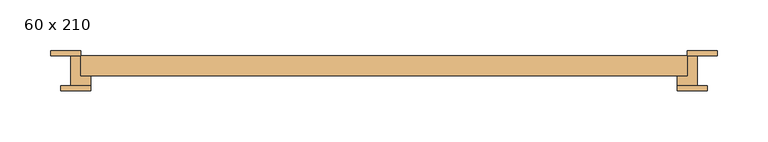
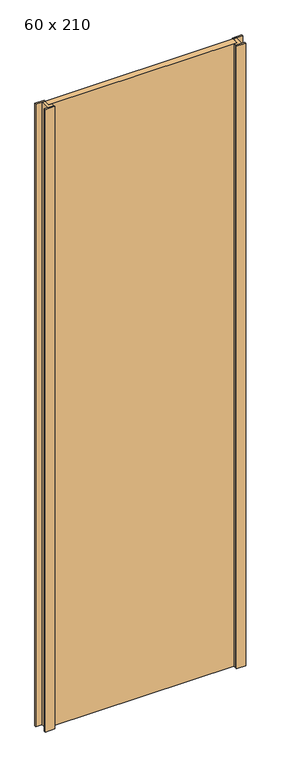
"""IFC4 building model written with IfcOpenShell, lengths in millimetres: door geometry, PORTA DE ABRIR PARA DIVISÓRIAS- 1 FOLHA : 60 x 210."""

from ifc_helpers import new_model, si_unit, origin, origin_with_axes, place, context, project, spatial, polyline, outline, extrude, source, transform, mapped, element, save


def door_60_x_210_5ad6dbc2(model_context):
    return source(origin(), model_context, "Body", "SweptSolid", [
        extrude(outline(polyline([(350.0, 15.0), (350.0, -5.0), (-250.0, -5.0), (-250.0, 15.0), (350.0, 15.0)])), origin_with_axes(), (0.0, 0.0, 1.0), 2100.0),
        extrude(outline(polyline([(380.0, 20.0), (380.0, 15.0), (350.0, 15.0), (350.0, 20.0), (380.0, 20.0)])), origin_with_axes(), (0.0, 0.0, 1.0), 2100.0),
        extrude(outline(polyline([(-250.0, 20.0), (-250.0, 15.0), (-280.0, 15.0), (-280.0, 20.0), (-250.0, 20.0)])), origin_with_axes(), (0.0, 0.0, 1.0), 2100.0),
        extrude(outline(polyline([(370.0, -15.0), (370.0, -20.0), (340.0, -20.0), (340.0, -15.0), (370.0, -15.0)])), origin_with_axes(), (0.0, 0.0, 1.0), 2100.0),
        extrude(outline(polyline([(-240.0, -15.0), (-240.0, -20.0), (-270.0, -20.0), (-270.0, -15.0), (-240.0, -15.0)])), origin_with_axes(), (0.0, 0.0, 1.0), 2100.0),
        extrude(outline(polyline([(-260.0, -15.0), (-260.0, 15.0), (-250.0, 15.0), (-250.0, -5.0), (-240.0, -5.0), (-240.0, -15.0), (-260.0, -15.0)])), origin_with_axes(), (0.0, 0.0, 1.0), 2100.0),
        extrude(outline(polyline([(360.0, -15.0), (340.0, -15.0), (340.0, -5.0), (350.0, -5.0), (350.0, 15.0), (360.0, 15.0), (360.0, -15.0)])), origin_with_axes(), (0.0, 0.0, 1.0), 2100.0),
    ])


if __name__ == "__main__":
    model = new_model("IFC4")
    model_context = context("Model", 3, world=origin())
    ifc_project = project(units=[si_unit("LENGTHUNIT", "METRE", prefix="MILLI")], contexts=[model_context])
    site = spatial("IfcSite", under=ifc_project)
    building = spatial("IfcBuilding", under=site)
    placement = place(None, origin())
    door_60_x_210_shape = door_60_x_210_5ad6dbc2(model_context)
    element("IfcDoor", 1, ObjectType="PORTA DE ABRIR PARA DIVISÓRIAS- 1 FOLHA : 60 x 210", at=placement, inside=building, context=model_context, shape_type="MappedRepresentation", body=[
        mapped(door_60_x_210_shape, transform((0.0, 0.0, 0.0), x_axis=(1.0, 0.0, 0.0), y_axis=(0.0, 1.0, 0.0), z_axis=(0.0, 0.0, 1.0))),
    ])
    save(model, "model.ifc")
